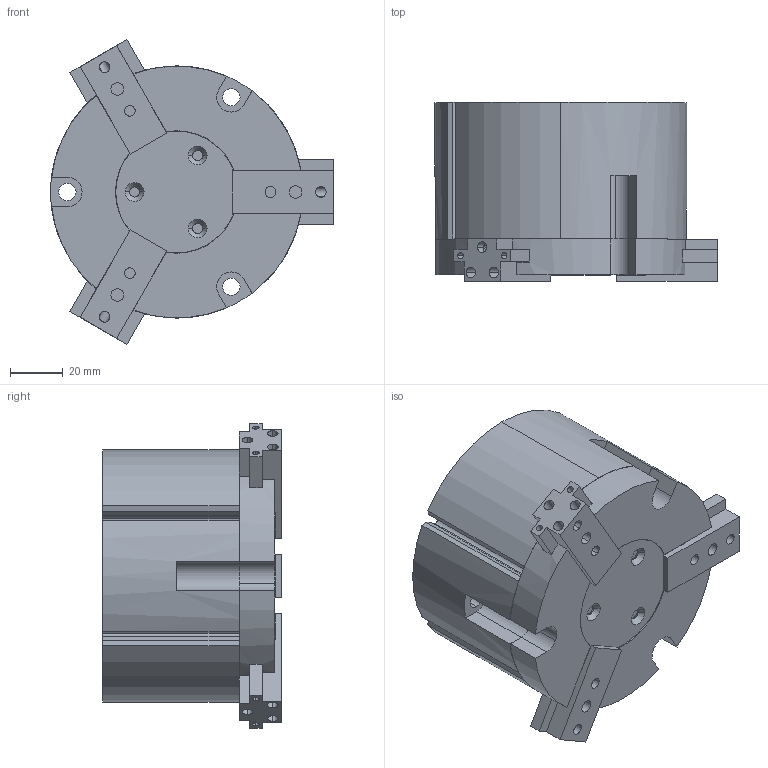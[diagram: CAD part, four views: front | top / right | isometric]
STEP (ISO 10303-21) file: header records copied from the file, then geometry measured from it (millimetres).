
FILE_DESCRIPTION (( 'STEP AP203' ), '1' );
FILE_NAME ('AGP-63 OPEN in MM.STEP', '2014-11-05T14:38:09', ( 'setup' ), ( '' ), 'SwSTEP 2.0', 'SolidWorks 2013', '' );
FILE_SCHEMA (( 'CONFIG_CONTROL_DESIGN' ));
Length unit declared in the file: millimetre
Products named in the file (5): AGP-63 COVER PLATE; AGP-63 OPEN in MM; AGP-63 BODY; AGP-63 JAW; AGP-63 CAP
Assembly tree (6 placements, depth 2):
  AGP-63 OPEN in MM
    AGP-63 BODY
    AGP-63 JAW  x3
    AGP-63 CAP
    AGP-63 COVER PLATE
Bounding box: 106.81 x 67.54 x 114.95 mm (x, y, z)
Volume: 341268 mm3; surface area: 79800.3 mm2
Topology: 6 solids, 6 shells, 340 faces, 935 edges, 592 vertices
Faces by surface type: plane 151, cylinder 146, cone 43
Entity records: 7569 total; most frequent: CARTESIAN_POINT 1259, DIRECTION 1254, ORIENTED_EDGE 1182, EDGE_CURVE 591, AXIS2_PLACEMENT_3D 447, VERTEX_POINT 388, VECTOR 360, LINE 360
